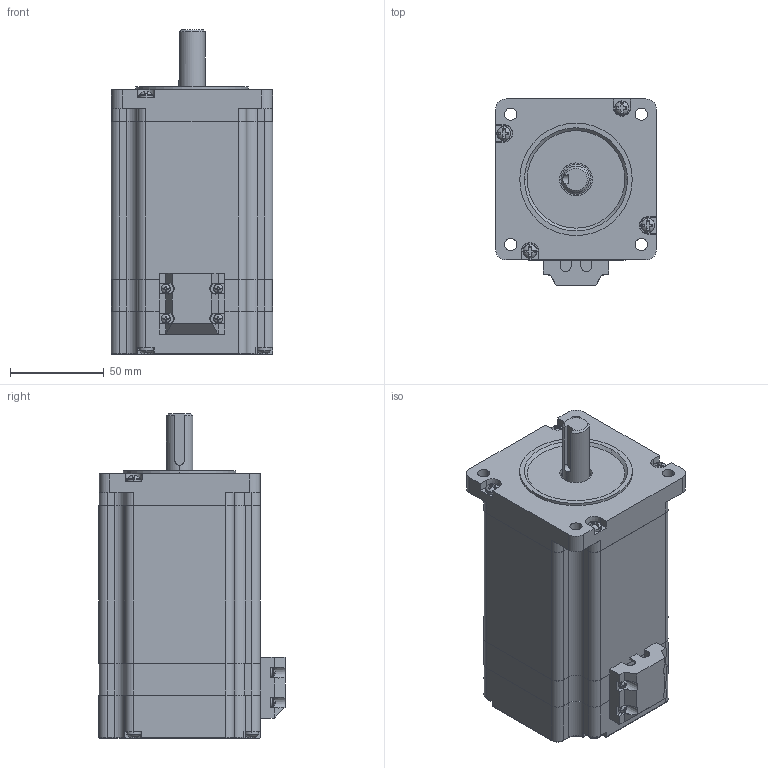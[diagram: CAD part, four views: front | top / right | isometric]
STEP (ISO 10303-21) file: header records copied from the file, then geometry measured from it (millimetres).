
FILE_DESCRIPTION (( 'STEP AP214' ), '1' );
FILE_NAME ('LS86E85-K4J60.STEP', '2019-11-26T13:21:17', ( '' ), ( '' ), 'SwSTEP 2.0', 'SolidWorks 2018', '' );
FILE_SCHEMA (( 'AUTOMOTIVE_DESIGN' ));
Length unit declared in the file: millimetre
Products named in the file (1): LS86E85-K4J60
Bounding box: 86 x 99.2 x 173 mm (x, y, z)
Volume: 516208.5 mm3; surface area: 126589.7 mm2
Topology: 1 solids, 1 shells, 5937 faces, 17161 edges, 11416 vertices
Faces by surface type: plane 5607, cylinder 260, torus 32, sphere 24, cone 14
Entity records: 195092 total; most frequent: CARTESIAN_POINT 34959, ORIENTED_EDGE 34322, DIRECTION 29741, EDGE_CURVE 17161, VECTOR 16257, LINE 16257, VERTEX_POINT 11416, AXIS2_PLACEMENT_3D 6742
